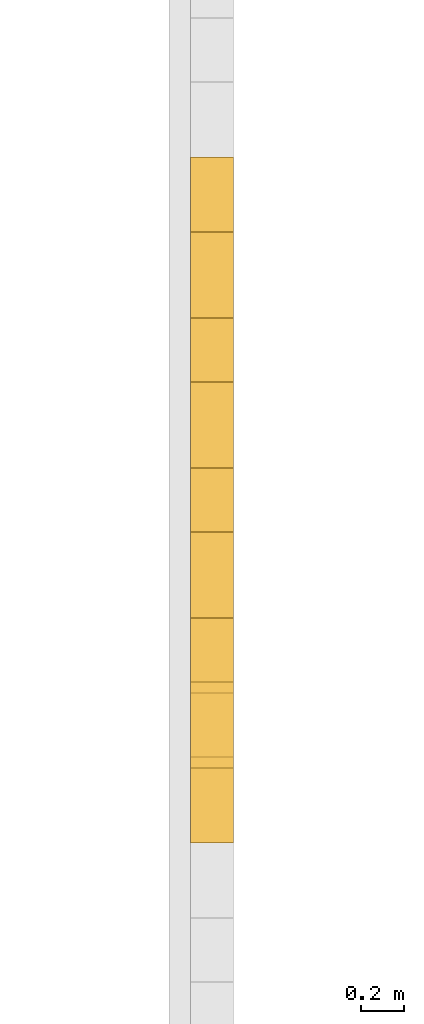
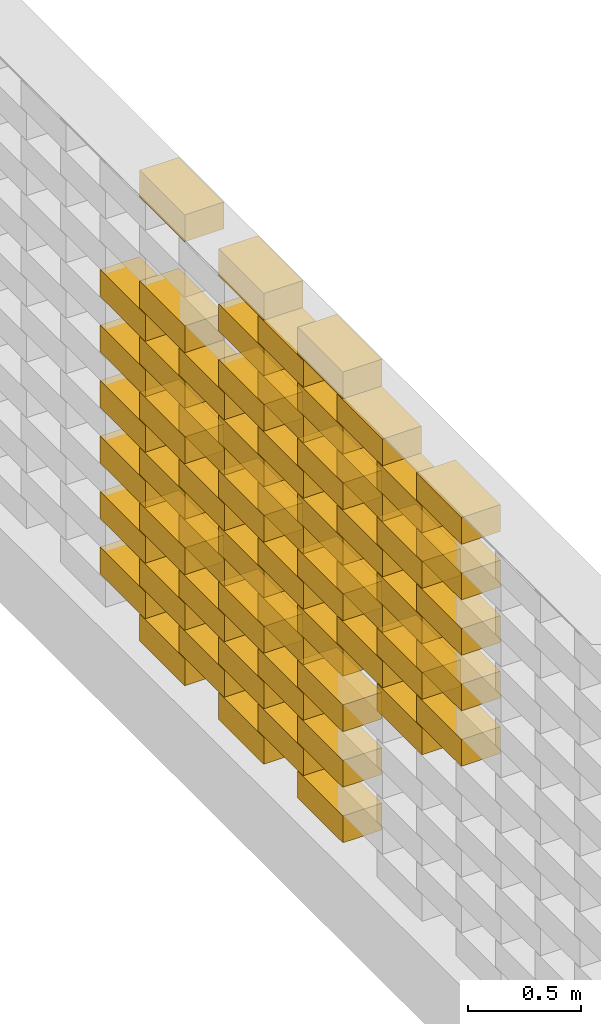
# One storey, part 39 of 62: 71 railings.
"""IFC2X3 building model written with IfcOpenShell, lengths in millimetres."""

from ifc_helpers import new_model, entity, si_unit, converted_unit, derived_unit, money_unit, direction, frame, origin_with_axes, place, context, subcontext, project, spatial, polyline, outline, extrude, material, type_object, element, save


model = new_model("IFC2X3")

# Units and contexts
model_context = context("Model", 3, precision=0.01, world=origin_with_axes(), true_north=direction((0.0, 1.0)))
body_context = subcontext(model_context, "Body", "Model", "MODEL_VIEW")
ifc_project = project(units=[si_unit("LENGTHUNIT", "METRE", prefix="MILLI"), si_unit("AREAUNIT", "SQUARE_METRE"), si_unit("VOLUMEUNIT", "CUBIC_METRE"), converted_unit("PLANEANGLEUNIT", "DEGREE", entity("IfcPlaneAngleMeasure", 0.0174532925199), si_unit("PLANEANGLEUNIT", "RADIAN"), dimensions=[0, 0, 0, 0, 0, 0, 0]), si_unit("SOLIDANGLEUNIT", "STERADIAN"), money_unit("EUR"), converted_unit("TIMEUNIT", "Year", entity("IfcTimeMeasure", 31556926.0), si_unit("TIMEUNIT", "SECOND"), dimensions=[0, 0, 1, 0, 0, 0, 0]), si_unit("MASSUNIT", "GRAM", prefix="KILO"), si_unit("THERMODYNAMICTEMPERATUREUNIT", "DEGREE_CELSIUS"), si_unit("LUMINOUSINTENSITYUNIT", "LUMEN"), si_unit("ENERGYUNIT", "JOULE", prefix="MEGA"), derived_unit("THERMALCONDUCTANCEUNIT", [(si_unit("POWERUNIT", "WATT"), 1), (si_unit("LENGTHUNIT", "METRE"), -1), (si_unit("THERMODYNAMICTEMPERATUREUNIT", "KELVIN"), -1)]), derived_unit("SPECIFICHEATCAPACITYUNIT", [(si_unit("ENERGYUNIT", "JOULE"), 1), (si_unit("MASSUNIT", "GRAM", prefix="KILO"), -1), (si_unit("THERMODYNAMICTEMPERATUREUNIT", "KELVIN"), -1)]), derived_unit("MASSDENSITYUNIT", [(si_unit("MASSUNIT", "GRAM", prefix="KILO"), 1), (si_unit("VOLUMEUNIT", "CUBIC_METRE"), -1)])], contexts=[model_context])

# Site, building, storey
site_placement = place(None, origin_with_axes())
site = spatial("IfcSite", under=ifc_project, at=site_placement, Name="KIRDE 14, ELVA", CompositionType="ELEMENT")
building_placement = place(site_placement, origin_with_axes())
building = spatial("IfcBuilding", under=site, at=building_placement, Name="PPA ja Päästeameti ühishoone", CompositionType="ELEMENT")
storey_placement = place(building_placement, origin_with_axes())
storey = spatial("IfcBuildingStorey", under=building, at=storey_placement, Name="Esimene korrus", CompositionType="ELEMENT", Elevation=0.0)

# Railings
ifc_material = material(Name="Air Space")
railing_type = type_object("IfcRailingType", Name="Air Space 200", PredefinedType="NOTDEFINED")
railing_1_placement = place(storey_placement, frame((620.000152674, -20223.8398398, 2800.0), z_axis=(0.0, 0.0, 1.0), x_axis=(1.45519151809e-09, -1.0, 0.0)))
element("IfcRailing", 1, at=railing_1_placement, inside=storey, type_object=railing_type, material=ifc_material, Name="plokk", PredefinedType="NOTDEFINED", context=body_context, shape_type="SweptSolid", body=[
    extrude(outline(polyline([(0.0, 0.0), (400.000001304, 0.0), (400.000001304, 200.0), (0.0, 200.0), (0.0, 0.0)])), origin_with_axes(), (0.0, 0.0, 1.0), 145.0),
])
railing_2_placement = place(storey_placement, frame((620.000153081, -19523.8398405, 2800.0), z_axis=(0.0, 0.0, 1.0), x_axis=(1.89174898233e-09, -1.0, 0.0)))
element("IfcRailing", 2, at=railing_2_placement, inside=storey, type_object=railing_type, material=ifc_material, Name="plokk", PredefinedType="NOTDEFINED", context=body_context, shape_type="SweptSolid", body=[
    extrude(outline(polyline([(0.0, 0.0), (399.999999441, 0.0), (399.999999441, 200.0), (0.0, 200.0), (0.0, 0.0)])), origin_with_axes(), (0.0, 0.0, 1.0), 145.0),
])
railing_3_placement = place(storey_placement, frame((620.000152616, -18823.8398403, 400.0), z_axis=(0.0, 0.0, 1.0), x_axis=(-4.36557456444e-10, -1.0, 0.0)))
element("IfcRailing", 3, at=railing_3_placement, inside=storey, type_object=railing_type, material=ifc_material, Name="plokk", PredefinedType="NOTDEFINED", context=body_context, shape_type="SweptSolid", body=[
    extrude(outline(polyline([(0.0, 0.0), (400.000000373, 0.0), (400.000000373, 200.0), (0.0, 200.0), (0.0, 0.0)])), origin_with_axes(), (0.0, 0.0, 1.0), 145.0),
])
railing_4_placement = place(storey_placement, frame((620.000153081, -19523.8398405, 400.0), z_axis=(0.0, 0.0, 1.0), x_axis=(1.89174898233e-09, -1.0, 0.0)))
element("IfcRailing", 4, at=railing_4_placement, inside=storey, type_object=railing_type, material=ifc_material, Name="plokk", PredefinedType="NOTDEFINED", context=body_context, shape_type="SweptSolid", body=[
    extrude(outline(polyline([(0.0, 0.0), (399.999999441, 0.0), (399.999999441, 200.0), (0.0, 200.0), (0.0, 0.0)])), origin_with_axes(), (0.0, 0.0, 1.0), 145.0),
])
railing_5_placement = place(storey_placement, frame((620.000152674, -20223.8398398, 400.0), z_axis=(0.0, 0.0, 1.0), x_axis=(1.45519151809e-09, -1.0, 0.0)))
element("IfcRailing", 5, at=railing_5_placement, inside=storey, type_object=railing_type, material=ifc_material, Name="plokk", PredefinedType="NOTDEFINED", context=body_context, shape_type="SweptSolid", body=[
    extrude(outline(polyline([(0.0, 0.0), (400.000001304, 0.0), (400.000001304, 200.0), (0.0, 200.0), (0.0, 0.0)])), origin_with_axes(), (0.0, 0.0, 1.0), 145.0),
])
railing_6_placement = place(storey_placement, frame((620.00015279, -18473.8398398, 550.0), z_axis=(0.0, 0.0, 1.0), x_axis=(8.73114912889e-10, -1.0, 0.0)))
element("IfcRailing", 6, at=railing_6_placement, inside=storey, type_object=railing_type, material=ifc_material, Name="plokk", PredefinedType="NOTDEFINED", context=body_context, shape_type="SweptSolid", body=[
    extrude(outline(polyline([(0.0, 0.0), (400.000000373, 0.0), (400.000000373, 200.0), (0.0, 200.0), (0.0, 0.0)])), origin_with_axes(), (0.0, 0.0, 1.0), 145.0),
])
railing_7_placement = place(storey_placement, frame((620.000153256, -19173.8398399, 550.0), z_axis=(0.0, 0.0, 1.0), x_axis=(-2.91038304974e-10, -1.0, 0.0)))
element("IfcRailing", 7, at=railing_7_placement, inside=storey, type_object=railing_type, material=ifc_material, Name="plokk", PredefinedType="NOTDEFINED", context=body_context, shape_type="SweptSolid", body=[
    extrude(outline(polyline([(0.0, 0.0), (399.999999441, 0.0), (399.999999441, 200.0), (0.0, 200.0), (0.0, 0.0)])), origin_with_axes(), (0.0, 0.0, 1.0), 145.0),
])
for number, where, z_axis, x_axis in (
    (8, (620.000153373, -19873.8398401, 550.0), (0.0, 0.0, 1.0), (-8.73114912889e-10, -1.0, 0.0)),
    (9, (620.000152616, -18823.8398403, 700.0), (0.0, 0.0, 1.0), (-4.36557456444e-10, -1.0, 0.0)),
):
    element("IfcRailing", number, at=place(storey_placement, frame(where, z_axis=z_axis, x_axis=x_axis)), inside=storey, type_object=railing_type, material=ifc_material, Name="plokk", PredefinedType="NOTDEFINED", context=body_context, shape_type="SweptSolid", body=[
        extrude(outline(polyline([(0.0, 0.0), (400.000000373, 0.0), (400.000000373, 200.0), (0.0, 200.0), (0.0, 0.0)])), origin_with_axes(), (0.0, 0.0, 1.0), 145.0),
    ])
railing_8_placement = place(storey_placement, frame((620.000153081, -19523.8398405, 700.0), z_axis=(0.0, 0.0, 1.0), x_axis=(1.89174898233e-09, -1.0, 0.0)))
element("IfcRailing", 10, at=railing_8_placement, inside=storey, type_object=railing_type, material=ifc_material, Name="plokk", PredefinedType="NOTDEFINED", context=body_context, shape_type="SweptSolid", body=[
    extrude(outline(polyline([(0.0, 0.0), (399.999999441, 0.0), (399.999999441, 200.0), (0.0, 200.0), (0.0, 0.0)])), origin_with_axes(), (0.0, 0.0, 1.0), 145.0),
])
railing_9_placement = place(storey_placement, frame((620.000152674, -20223.8398398, 700.0), z_axis=(0.0, 0.0, 1.0), x_axis=(1.45519151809e-09, -1.0, 0.0)))
element("IfcRailing", 11, at=railing_9_placement, inside=storey, type_object=railing_type, material=ifc_material, Name="plokk", PredefinedType="NOTDEFINED", context=body_context, shape_type="SweptSolid", body=[
    extrude(outline(polyline([(0.0, 0.0), (400.000001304, 0.0), (400.000001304, 200.0), (0.0, 200.0), (0.0, 0.0)])), origin_with_axes(), (0.0, 0.0, 1.0), 145.0),
])
railing_10_placement = place(storey_placement, frame((620.00015279, -18473.8398398, 850.0), z_axis=(0.0, 0.0, 1.0), x_axis=(8.73114912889e-10, -1.0, 0.0)))
element("IfcRailing", 12, at=railing_10_placement, inside=storey, type_object=railing_type, material=ifc_material, Name="plokk", PredefinedType="NOTDEFINED", context=body_context, shape_type="SweptSolid", body=[
    extrude(outline(polyline([(0.0, 0.0), (400.000000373, 0.0), (400.000000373, 200.0), (0.0, 200.0), (0.0, 0.0)])), origin_with_axes(), (0.0, 0.0, 1.0), 145.0),
])
railing_11_placement = place(storey_placement, frame((620.000153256, -19173.8398399, 850.0), z_axis=(0.0, 0.0, 1.0), x_axis=(-2.91038304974e-10, -1.0, 0.0)))
element("IfcRailing", 13, at=railing_11_placement, inside=storey, type_object=railing_type, material=ifc_material, Name="plokk", PredefinedType="NOTDEFINED", context=body_context, shape_type="SweptSolid", body=[
    extrude(outline(polyline([(0.0, 0.0), (399.999999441, 0.0), (399.999999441, 200.0), (0.0, 200.0), (0.0, 0.0)])), origin_with_axes(), (0.0, 0.0, 1.0), 145.0),
])
for number, where, z_axis, x_axis in (
    (14, (620.000153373, -19873.8398401, 850.0), (0.0, 0.0, 1.0), (-8.73114912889e-10, -1.0, 0.0)),
    (15, (620.000152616, -18823.8398403, 1000.0), (0.0, 0.0, 1.0), (-4.36557456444e-10, -1.0, 0.0)),
):
    element("IfcRailing", number, at=place(storey_placement, frame(where, z_axis=z_axis, x_axis=x_axis)), inside=storey, type_object=railing_type, material=ifc_material, Name="plokk", PredefinedType="NOTDEFINED", context=body_context, shape_type="SweptSolid", body=[
        extrude(outline(polyline([(0.0, 0.0), (400.000000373, 0.0), (400.000000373, 200.0), (0.0, 200.0), (0.0, 0.0)])), origin_with_axes(), (0.0, 0.0, 1.0), 145.0),
    ])
railing_12_placement = place(storey_placement, frame((620.000153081, -19523.8398405, 1000.0), z_axis=(0.0, 0.0, 1.0), x_axis=(1.89174898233e-09, -1.0, 0.0)))
element("IfcRailing", 16, at=railing_12_placement, inside=storey, type_object=railing_type, material=ifc_material, Name="plokk", PredefinedType="NOTDEFINED", context=body_context, shape_type="SweptSolid", body=[
    extrude(outline(polyline([(0.0, 0.0), (399.999999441, 0.0), (399.999999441, 200.0), (0.0, 200.0), (0.0, 0.0)])), origin_with_axes(), (0.0, 0.0, 1.0), 145.0),
])
railing_13_placement = place(storey_placement, frame((620.000152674, -20223.8398398, 1000.0), z_axis=(0.0, 0.0, 1.0), x_axis=(1.45519151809e-09, -1.0, 0.0)))
element("IfcRailing", 17, at=railing_13_placement, inside=storey, type_object=railing_type, material=ifc_material, Name="plokk", PredefinedType="NOTDEFINED", context=body_context, shape_type="SweptSolid", body=[
    extrude(outline(polyline([(0.0, 0.0), (400.000001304, 0.0), (400.000001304, 200.0), (0.0, 200.0), (0.0, 0.0)])), origin_with_axes(), (0.0, 0.0, 1.0), 145.0),
])
for number, where, z_axis, x_axis in (
    (18, (620.000152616, -18823.8398403, 2800.0), (0.0, 0.0, 1.0), (-4.36557456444e-10, -1.0, 0.0)),
    (19, (620.000152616, -18823.8398403, 1000.0), (0.0, 0.0, 1.0), (-4.36557456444e-10, -1.0, 0.0)),
):
    element("IfcRailing", number, at=place(storey_placement, frame(where, z_axis=z_axis, x_axis=x_axis)), inside=storey, type_object=railing_type, material=ifc_material, Name="plokk", PredefinedType="NOTDEFINED", context=body_context, shape_type="SweptSolid", body=[
        extrude(outline(polyline([(0.0, 0.0), (400.000000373, 0.0), (400.000000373, 200.0), (0.0, 200.0), (0.0, 0.0)])), origin_with_axes(), (0.0, 0.0, 1.0), 145.0),
    ])
railing_14_placement = place(storey_placement, frame((620.000153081, -19523.8398405, 1000.0), z_axis=(0.0, 0.0, 1.0), x_axis=(1.89174898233e-09, -1.0, 0.0)))
element("IfcRailing", 20, at=railing_14_placement, inside=storey, type_object=railing_type, material=ifc_material, Name="plokk", PredefinedType="NOTDEFINED", context=body_context, shape_type="SweptSolid", body=[
    extrude(outline(polyline([(0.0, 0.0), (399.999999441, 0.0), (399.999999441, 200.0), (0.0, 200.0), (0.0, 0.0)])), origin_with_axes(), (0.0, 0.0, 1.0), 145.0),
])
railing_15_placement = place(storey_placement, frame((620.000152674, -20223.8398398, 1000.0), z_axis=(0.0, 0.0, 1.0), x_axis=(1.45519151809e-09, -1.0, 0.0)))
element("IfcRailing", 21, at=railing_15_placement, inside=storey, type_object=railing_type, material=ifc_material, Name="plokk", PredefinedType="NOTDEFINED", context=body_context, shape_type="SweptSolid", body=[
    extrude(outline(polyline([(0.0, 0.0), (400.000001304, 0.0), (400.000001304, 200.0), (0.0, 200.0), (0.0, 0.0)])), origin_with_axes(), (0.0, 0.0, 1.0), 145.0),
])
railing_16_placement = place(storey_placement, frame((620.00015279, -18473.8398398, 1150.0), z_axis=(0.0, 0.0, 1.0), x_axis=(8.73114912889e-10, -1.0, 0.0)))
element("IfcRailing", 22, at=railing_16_placement, inside=storey, type_object=railing_type, material=ifc_material, Name="plokk", PredefinedType="NOTDEFINED", context=body_context, shape_type="SweptSolid", body=[
    extrude(outline(polyline([(0.0, 0.0), (400.000000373, 0.0), (400.000000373, 200.0), (0.0, 200.0), (0.0, 0.0)])), origin_with_axes(), (0.0, 0.0, 1.0), 145.0),
])
railing_17_placement = place(storey_placement, frame((620.000153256, -19173.8398399, 1150.0), z_axis=(0.0, 0.0, 1.0), x_axis=(-2.91038304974e-10, -1.0, 0.0)))
element("IfcRailing", 23, at=railing_17_placement, inside=storey, type_object=railing_type, material=ifc_material, Name="plokk", PredefinedType="NOTDEFINED", context=body_context, shape_type="SweptSolid", body=[
    extrude(outline(polyline([(0.0, 0.0), (399.999999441, 0.0), (399.999999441, 200.0), (0.0, 200.0), (0.0, 0.0)])), origin_with_axes(), (0.0, 0.0, 1.0), 145.0),
])
for number, where, z_axis, x_axis in (
    (24, (620.000153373, -19873.8398401, 1150.0), (0.0, 0.0, 1.0), (-8.73114912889e-10, -1.0, 0.0)),
    (25, (620.000152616, -18823.8398403, 1300.0), (0.0, 0.0, 1.0), (-4.36557456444e-10, -1.0, 0.0)),
):
    element("IfcRailing", number, at=place(storey_placement, frame(where, z_axis=z_axis, x_axis=x_axis)), inside=storey, type_object=railing_type, material=ifc_material, Name="plokk", PredefinedType="NOTDEFINED", context=body_context, shape_type="SweptSolid", body=[
        extrude(outline(polyline([(0.0, 0.0), (400.000000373, 0.0), (400.000000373, 200.0), (0.0, 200.0), (0.0, 0.0)])), origin_with_axes(), (0.0, 0.0, 1.0), 145.0),
    ])
railing_18_placement = place(storey_placement, frame((620.000153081, -19523.8398405, 1300.0), z_axis=(0.0, 0.0, 1.0), x_axis=(1.89174898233e-09, -1.0, 0.0)))
element("IfcRailing", 26, at=railing_18_placement, inside=storey, type_object=railing_type, material=ifc_material, Name="plokk", PredefinedType="NOTDEFINED", context=body_context, shape_type="SweptSolid", body=[
    extrude(outline(polyline([(0.0, 0.0), (399.999999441, 0.0), (399.999999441, 200.0), (0.0, 200.0), (0.0, 0.0)])), origin_with_axes(), (0.0, 0.0, 1.0), 145.0),
])
railing_19_placement = place(storey_placement, frame((620.000152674, -20223.8398398, 1300.0), z_axis=(0.0, 0.0, 1.0), x_axis=(1.45519151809e-09, -1.0, 0.0)))
element("IfcRailing", 27, at=railing_19_placement, inside=storey, type_object=railing_type, material=ifc_material, Name="plokk", PredefinedType="NOTDEFINED", context=body_context, shape_type="SweptSolid", body=[
    extrude(outline(polyline([(0.0, 0.0), (400.000001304, 0.0), (400.000001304, 200.0), (0.0, 200.0), (0.0, 0.0)])), origin_with_axes(), (0.0, 0.0, 1.0), 145.0),
])
railing_20_placement = place(storey_placement, frame((620.000153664, -20923.8398409, 1300.0), z_axis=(0.0, 0.0, 1.0), x_axis=(7.27595762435e-10, -1.0, 0.0)))
element("IfcRailing", 28, at=railing_20_placement, inside=storey, type_object=railing_type, material=ifc_material, Name="plokk", PredefinedType="NOTDEFINED", context=body_context, shape_type="SweptSolid", body=[
    extrude(outline(polyline([(0.0, 0.0), (399.999999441, 0.0), (399.999999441, 200.0), (0.0, 200.0), (0.0, 0.0)])), origin_with_axes(), (0.0, 0.0, 1.0), 145.0),
])
railing_21_placement = place(storey_placement, frame((620.00015279, -18473.8398398, 1450.0), z_axis=(0.0, 0.0, 1.0), x_axis=(8.73114912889e-10, -1.0, 0.0)))
element("IfcRailing", 29, at=railing_21_placement, inside=storey, type_object=railing_type, material=ifc_material, Name="plokk", PredefinedType="NOTDEFINED", context=body_context, shape_type="SweptSolid", body=[
    extrude(outline(polyline([(0.0, 0.0), (400.000000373, 0.0), (400.000000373, 200.0), (0.0, 200.0), (0.0, 0.0)])), origin_with_axes(), (0.0, 0.0, 1.0), 145.0),
])
railing_22_placement = place(storey_placement, frame((620.000153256, -19173.8398399, 1450.0), z_axis=(0.0, 0.0, 1.0), x_axis=(-2.91038304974e-10, -1.0, 0.0)))
element("IfcRailing", 30, at=railing_22_placement, inside=storey, type_object=railing_type, material=ifc_material, Name="plokk", PredefinedType="NOTDEFINED", context=body_context, shape_type="SweptSolid", body=[
    extrude(outline(polyline([(0.0, 0.0), (399.999999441, 0.0), (399.999999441, 200.0), (0.0, 200.0), (0.0, 0.0)])), origin_with_axes(), (0.0, 0.0, 1.0), 145.0),
])
for number, where, z_axis, x_axis in (
    (31, (620.000153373, -19873.8398401, 1450.0), (0.0, 0.0, 1.0), (-8.73114912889e-10, -1.0, 0.0)),
    (32, (620.000153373, -20573.8398403, 1450.0), (0.0, 0.0, 1.0), (-2.91038304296e-10, -1.0, 0.0)),
):
    element("IfcRailing", number, at=place(storey_placement, frame(where, z_axis=z_axis, x_axis=x_axis)), inside=storey, type_object=railing_type, material=ifc_material, Name="plokk", PredefinedType="NOTDEFINED", context=body_context, shape_type="SweptSolid", body=[
        extrude(outline(polyline([(0.0, 0.0), (400.000000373, 0.0), (400.000000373, 200.0), (0.0, 200.0), (0.0, 0.0)])), origin_with_axes(), (0.0, 0.0, 1.0), 145.0),
    ])
railing_23_placement = place(storey_placement, frame((620.00015279, -21273.8398414, 1450.0), z_axis=(0.0, 0.0, 1.0), x_axis=(2.03726813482e-09, -1.0, 0.0)))
element("IfcRailing", 33, at=railing_23_placement, inside=storey, type_object=railing_type, material=ifc_material, Name="plokk", PredefinedType="NOTDEFINED", context=body_context, shape_type="SweptSolid", body=[
    extrude(outline(polyline([(0.0, 0.0), (399.999999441, 0.0), (399.999999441, 200.0), (0.0, 200.0), (0.0, 0.0)])), origin_with_axes(), (0.0, 0.0, 1.0), 145.0),
])
railing_24_placement = place(storey_placement, frame((620.000152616, -18823.8398403, 1600.0), z_axis=(0.0, 0.0, 1.0), x_axis=(-4.36557456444e-10, -1.0, 0.0)))
element("IfcRailing", 34, at=railing_24_placement, inside=storey, type_object=railing_type, material=ifc_material, Name="plokk", PredefinedType="NOTDEFINED", context=body_context, shape_type="SweptSolid", body=[
    extrude(outline(polyline([(0.0, 0.0), (400.000000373, 0.0), (400.000000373, 200.0), (0.0, 200.0), (0.0, 0.0)])), origin_with_axes(), (0.0, 0.0, 1.0), 145.0),
])
railing_25_placement = place(storey_placement, frame((620.000153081, -19523.8398405, 1600.0), z_axis=(0.0, 0.0, 1.0), x_axis=(1.89174898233e-09, -1.0, 0.0)))
element("IfcRailing", 35, at=railing_25_placement, inside=storey, type_object=railing_type, material=ifc_material, Name="plokk", PredefinedType="NOTDEFINED", context=body_context, shape_type="SweptSolid", body=[
    extrude(outline(polyline([(0.0, 0.0), (399.999999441, 0.0), (399.999999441, 200.0), (0.0, 200.0), (0.0, 0.0)])), origin_with_axes(), (0.0, 0.0, 1.0), 145.0),
])
railing_26_placement = place(storey_placement, frame((620.000152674, -20223.8398398, 1600.0), z_axis=(0.0, 0.0, 1.0), x_axis=(1.45519151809e-09, -1.0, 0.0)))
element("IfcRailing", 36, at=railing_26_placement, inside=storey, type_object=railing_type, material=ifc_material, Name="plokk", PredefinedType="NOTDEFINED", context=body_context, shape_type="SweptSolid", body=[
    extrude(outline(polyline([(0.0, 0.0), (400.000001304, 0.0), (400.000001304, 200.0), (0.0, 200.0), (0.0, 0.0)])), origin_with_axes(), (0.0, 0.0, 1.0), 145.0),
])
railing_27_placement = place(storey_placement, frame((620.000153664, -20923.8398409, 1600.0), z_axis=(0.0, 0.0, 1.0), x_axis=(7.27595762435e-10, -1.0, 0.0)))
element("IfcRailing", 37, at=railing_27_placement, inside=storey, type_object=railing_type, material=ifc_material, Name="plokk", PredefinedType="NOTDEFINED", context=body_context, shape_type="SweptSolid", body=[
    extrude(outline(polyline([(0.0, 0.0), (399.999999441, 0.0), (399.999999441, 200.0), (0.0, 200.0), (0.0, 0.0)])), origin_with_axes(), (0.0, 0.0, 1.0), 145.0),
])
railing_28_placement = place(storey_placement, frame((620.000152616, -18823.8398403, 1600.0), z_axis=(0.0, 0.0, 1.0), x_axis=(-4.36557456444e-10, -1.0, 0.0)))
element("IfcRailing", 38, at=railing_28_placement, inside=storey, type_object=railing_type, material=ifc_material, Name="plokk", PredefinedType="NOTDEFINED", context=body_context, shape_type="SweptSolid", body=[
    extrude(outline(polyline([(0.0, 0.0), (400.000000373, 0.0), (400.000000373, 200.0), (0.0, 200.0), (0.0, 0.0)])), origin_with_axes(), (0.0, 0.0, 1.0), 145.0),
])
railing_29_placement = place(storey_placement, frame((620.000153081, -19523.8398405, 1600.0), z_axis=(0.0, 0.0, 1.0), x_axis=(1.89174898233e-09, -1.0, 0.0)))
element("IfcRailing", 39, at=railing_29_placement, inside=storey, type_object=railing_type, material=ifc_material, Name="plokk", PredefinedType="NOTDEFINED", context=body_context, shape_type="SweptSolid", body=[
    extrude(outline(polyline([(0.0, 0.0), (399.999999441, 0.0), (399.999999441, 200.0), (0.0, 200.0), (0.0, 0.0)])), origin_with_axes(), (0.0, 0.0, 1.0), 145.0),
])
railing_30_placement = place(storey_placement, frame((620.000152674, -20223.8398398, 1600.0), z_axis=(0.0, 0.0, 1.0), x_axis=(1.45519151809e-09, -1.0, 0.0)))
element("IfcRailing", 40, at=railing_30_placement, inside=storey, type_object=railing_type, material=ifc_material, Name="plokk", PredefinedType="NOTDEFINED", context=body_context, shape_type="SweptSolid", body=[
    extrude(outline(polyline([(0.0, 0.0), (400.000001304, 0.0), (400.000001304, 200.0), (0.0, 200.0), (0.0, 0.0)])), origin_with_axes(), (0.0, 0.0, 1.0), 145.0),
])
railing_31_placement = place(storey_placement, frame((620.000153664, -20923.8398409, 1600.0), z_axis=(0.0, 0.0, 1.0), x_axis=(7.27595762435e-10, -1.0, 0.0)))
element("IfcRailing", 41, at=railing_31_placement, inside=storey, type_object=railing_type, material=ifc_material, Name="plokk", PredefinedType="NOTDEFINED", context=body_context, shape_type="SweptSolid", body=[
    extrude(outline(polyline([(0.0, 0.0), (399.999999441, 0.0), (399.999999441, 200.0), (0.0, 200.0), (0.0, 0.0)])), origin_with_axes(), (0.0, 0.0, 1.0), 145.0),
])
railing_32_placement = place(storey_placement, frame((620.00015279, -18473.8398398, 1750.0), z_axis=(0.0, 0.0, 1.0), x_axis=(8.73114912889e-10, -1.0, 0.0)))
element("IfcRailing", 42, at=railing_32_placement, inside=storey, type_object=railing_type, material=ifc_material, Name="plokk", PredefinedType="NOTDEFINED", context=body_context, shape_type="SweptSolid", body=[
    extrude(outline(polyline([(0.0, 0.0), (400.000000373, 0.0), (400.000000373, 200.0), (0.0, 200.0), (0.0, 0.0)])), origin_with_axes(), (0.0, 0.0, 1.0), 145.0),
])
railing_33_placement = place(storey_placement, frame((620.000153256, -19173.8398399, 1750.0), z_axis=(0.0, 0.0, 1.0), x_axis=(-2.91038304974e-10, -1.0, 0.0)))
element("IfcRailing", 43, at=railing_33_placement, inside=storey, type_object=railing_type, material=ifc_material, Name="plokk", PredefinedType="NOTDEFINED", context=body_context, shape_type="SweptSolid", body=[
    extrude(outline(polyline([(0.0, 0.0), (399.999999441, 0.0), (399.999999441, 200.0), (0.0, 200.0), (0.0, 0.0)])), origin_with_axes(), (0.0, 0.0, 1.0), 145.0),
])
for number, where, z_axis, x_axis in (
    (44, (620.000153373, -19873.8398401, 1750.0), (0.0, 0.0, 1.0), (-8.73114912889e-10, -1.0, 0.0)),
    (45, (620.000153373, -20573.8398403, 1750.0), (0.0, 0.0, 1.0), (-2.91038304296e-10, -1.0, 0.0)),
):
    element("IfcRailing", number, at=place(storey_placement, frame(where, z_axis=z_axis, x_axis=x_axis)), inside=storey, type_object=railing_type, material=ifc_material, Name="plokk", PredefinedType="NOTDEFINED", context=body_context, shape_type="SweptSolid", body=[
        extrude(outline(polyline([(0.0, 0.0), (400.000000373, 0.0), (400.000000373, 200.0), (0.0, 200.0), (0.0, 0.0)])), origin_with_axes(), (0.0, 0.0, 1.0), 145.0),
    ])
railing_34_placement = place(storey_placement, frame((620.00015279, -21273.8398414, 1750.0), z_axis=(0.0, 0.0, 1.0), x_axis=(2.03726813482e-09, -1.0, 0.0)))
element("IfcRailing", 46, at=railing_34_placement, inside=storey, type_object=railing_type, material=ifc_material, Name="plokk", PredefinedType="NOTDEFINED", context=body_context, shape_type="SweptSolid", body=[
    extrude(outline(polyline([(0.0, 0.0), (399.999999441, 0.0), (399.999999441, 200.0), (0.0, 200.0), (0.0, 0.0)])), origin_with_axes(), (0.0, 0.0, 1.0), 145.0),
])
railing_35_placement = place(storey_placement, frame((620.000152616, -18823.8398403, 1900.0), z_axis=(0.0, 0.0, 1.0), x_axis=(-4.36557456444e-10, -1.0, 0.0)))
element("IfcRailing", 47, at=railing_35_placement, inside=storey, type_object=railing_type, material=ifc_material, Name="plokk", PredefinedType="NOTDEFINED", context=body_context, shape_type="SweptSolid", body=[
    extrude(outline(polyline([(0.0, 0.0), (400.000000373, 0.0), (400.000000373, 200.0), (0.0, 200.0), (0.0, 0.0)])), origin_with_axes(), (0.0, 0.0, 1.0), 145.0),
])
railing_36_placement = place(storey_placement, frame((620.000153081, -19523.8398405, 1900.0), z_axis=(0.0, 0.0, 1.0), x_axis=(1.89174898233e-09, -1.0, 0.0)))
element("IfcRailing", 48, at=railing_36_placement, inside=storey, type_object=railing_type, material=ifc_material, Name="plokk", PredefinedType="NOTDEFINED", context=body_context, shape_type="SweptSolid", body=[
    extrude(outline(polyline([(0.0, 0.0), (399.999999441, 0.0), (399.999999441, 200.0), (0.0, 200.0), (0.0, 0.0)])), origin_with_axes(), (0.0, 0.0, 1.0), 145.0),
])
railing_37_placement = place(storey_placement, frame((620.000152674, -20223.8398398, 1900.0), z_axis=(0.0, 0.0, 1.0), x_axis=(1.45519151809e-09, -1.0, 0.0)))
element("IfcRailing", 49, at=railing_37_placement, inside=storey, type_object=railing_type, material=ifc_material, Name="plokk", PredefinedType="NOTDEFINED", context=body_context, shape_type="SweptSolid", body=[
    extrude(outline(polyline([(0.0, 0.0), (400.000001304, 0.0), (400.000001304, 200.0), (0.0, 200.0), (0.0, 0.0)])), origin_with_axes(), (0.0, 0.0, 1.0), 145.0),
])
railing_38_placement = place(storey_placement, frame((620.000153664, -20923.8398409, 1900.0), z_axis=(0.0, 0.0, 1.0), x_axis=(7.27595762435e-10, -1.0, 0.0)))
element("IfcRailing", 50, at=railing_38_placement, inside=storey, type_object=railing_type, material=ifc_material, Name="plokk", PredefinedType="NOTDEFINED", context=body_context, shape_type="SweptSolid", body=[
    extrude(outline(polyline([(0.0, 0.0), (399.999999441, 0.0), (399.999999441, 200.0), (0.0, 200.0), (0.0, 0.0)])), origin_with_axes(), (0.0, 0.0, 1.0), 145.0),
])
railing_39_placement = place(storey_placement, frame((620.00015279, -18473.8398398, 2050.0), z_axis=(0.0, 0.0, 1.0), x_axis=(8.73114912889e-10, -1.0, 0.0)))
element("IfcRailing", 51, at=railing_39_placement, inside=storey, type_object=railing_type, material=ifc_material, Name="plokk", PredefinedType="NOTDEFINED", context=body_context, shape_type="SweptSolid", body=[
    extrude(outline(polyline([(0.0, 0.0), (400.000000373, 0.0), (400.000000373, 200.0), (0.0, 200.0), (0.0, 0.0)])), origin_with_axes(), (0.0, 0.0, 1.0), 145.0),
])
railing_40_placement = place(storey_placement, frame((620.000153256, -19173.8398399, 2050.0), z_axis=(0.0, 0.0, 1.0), x_axis=(-2.91038304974e-10, -1.0, 0.0)))
element("IfcRailing", 52, at=railing_40_placement, inside=storey, type_object=railing_type, material=ifc_material, Name="plokk", PredefinedType="NOTDEFINED", context=body_context, shape_type="SweptSolid", body=[
    extrude(outline(polyline([(0.0, 0.0), (399.999999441, 0.0), (399.999999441, 200.0), (0.0, 200.0), (0.0, 0.0)])), origin_with_axes(), (0.0, 0.0, 1.0), 145.0),
])
for number, where, z_axis, x_axis in (
    (53, (620.000153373, -19873.8398401, 2050.0), (0.0, 0.0, 1.0), (-8.73114912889e-10, -1.0, 0.0)),
    (54, (620.000153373, -20573.8398403, 2050.0), (0.0, 0.0, 1.0), (-2.91038304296e-10, -1.0, 0.0)),
):
    element("IfcRailing", number, at=place(storey_placement, frame(where, z_axis=z_axis, x_axis=x_axis)), inside=storey, type_object=railing_type, material=ifc_material, Name="plokk", PredefinedType="NOTDEFINED", context=body_context, shape_type="SweptSolid", body=[
        extrude(outline(polyline([(0.0, 0.0), (400.000000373, 0.0), (400.000000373, 200.0), (0.0, 200.0), (0.0, 0.0)])), origin_with_axes(), (0.0, 0.0, 1.0), 145.0),
    ])
railing_41_placement = place(storey_placement, frame((620.00015279, -21273.8398414, 2050.0), z_axis=(0.0, 0.0, 1.0), x_axis=(2.03726813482e-09, -1.0, 0.0)))
element("IfcRailing", 55, at=railing_41_placement, inside=storey, type_object=railing_type, material=ifc_material, Name="plokk", PredefinedType="NOTDEFINED", context=body_context, shape_type="SweptSolid", body=[
    extrude(outline(polyline([(0.0, 0.0), (399.999999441, 0.0), (399.999999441, 200.0), (0.0, 200.0), (0.0, 0.0)])), origin_with_axes(), (0.0, 0.0, 1.0), 145.0),
])
railing_42_placement = place(storey_placement, frame((620.000152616, -18823.8398403, 2200.0), z_axis=(0.0, 0.0, 1.0), x_axis=(-4.36557456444e-10, -1.0, 0.0)))
element("IfcRailing", 56, at=railing_42_placement, inside=storey, type_object=railing_type, material=ifc_material, Name="plokk", PredefinedType="NOTDEFINED", context=body_context, shape_type="SweptSolid", body=[
    extrude(outline(polyline([(0.0, 0.0), (400.000000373, 0.0), (400.000000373, 200.0), (0.0, 200.0), (0.0, 0.0)])), origin_with_axes(), (0.0, 0.0, 1.0), 145.0),
])
railing_43_placement = place(storey_placement, frame((620.000153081, -19523.8398405, 2200.0), z_axis=(0.0, 0.0, 1.0), x_axis=(1.89174898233e-09, -1.0, 0.0)))
element("IfcRailing", 57, at=railing_43_placement, inside=storey, type_object=railing_type, material=ifc_material, Name="plokk", PredefinedType="NOTDEFINED", context=body_context, shape_type="SweptSolid", body=[
    extrude(outline(polyline([(0.0, 0.0), (399.999999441, 0.0), (399.999999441, 200.0), (0.0, 200.0), (0.0, 0.0)])), origin_with_axes(), (0.0, 0.0, 1.0), 145.0),
])
railing_44_placement = place(storey_placement, frame((620.000152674, -20223.8398398, 2200.0), z_axis=(0.0, 0.0, 1.0), x_axis=(1.45519151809e-09, -1.0, 0.0)))
element("IfcRailing", 58, at=railing_44_placement, inside=storey, type_object=railing_type, material=ifc_material, Name="plokk", PredefinedType="NOTDEFINED", context=body_context, shape_type="SweptSolid", body=[
    extrude(outline(polyline([(0.0, 0.0), (400.000001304, 0.0), (400.000001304, 200.0), (0.0, 200.0), (0.0, 0.0)])), origin_with_axes(), (0.0, 0.0, 1.0), 145.0),
])
for number, where, z_axis, x_axis in (
    (59, (620.000153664, -20923.8398409, 2200.0), (0.0, 0.0, 1.0), (7.27595762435e-10, -1.0, 0.0)),
    (60, (620.000153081, -19523.8398405, 2200.0), (0.0, 0.0, 1.0), (1.89174898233e-09, -1.0, 0.0)),
):
    element("IfcRailing", number, at=place(storey_placement, frame(where, z_axis=z_axis, x_axis=x_axis)), inside=storey, type_object=railing_type, material=ifc_material, Name="plokk", PredefinedType="NOTDEFINED", context=body_context, shape_type="SweptSolid", body=[
        extrude(outline(polyline([(0.0, 0.0), (399.999999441, 0.0), (399.999999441, 200.0), (0.0, 200.0), (0.0, 0.0)])), origin_with_axes(), (0.0, 0.0, 1.0), 145.0),
    ])
railing_45_placement = place(storey_placement, frame((620.000152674, -20223.8398398, 2200.0), z_axis=(0.0, 0.0, 1.0), x_axis=(1.45519151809e-09, -1.0, 0.0)))
element("IfcRailing", 61, at=railing_45_placement, inside=storey, type_object=railing_type, material=ifc_material, Name="plokk", PredefinedType="NOTDEFINED", context=body_context, shape_type="SweptSolid", body=[
    extrude(outline(polyline([(0.0, 0.0), (400.000001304, 0.0), (400.000001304, 200.0), (0.0, 200.0), (0.0, 0.0)])), origin_with_axes(), (0.0, 0.0, 1.0), 145.0),
])
railing_46_placement = place(storey_placement, frame((620.000153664, -20923.8398409, 2200.0), z_axis=(0.0, 0.0, 1.0), x_axis=(7.27595762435e-10, -1.0, 0.0)))
element("IfcRailing", 62, at=railing_46_placement, inside=storey, type_object=railing_type, material=ifc_material, Name="plokk", PredefinedType="NOTDEFINED", context=body_context, shape_type="SweptSolid", body=[
    extrude(outline(polyline([(0.0, 0.0), (399.999999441, 0.0), (399.999999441, 200.0), (0.0, 200.0), (0.0, 0.0)])), origin_with_axes(), (0.0, 0.0, 1.0), 145.0),
])
for number, where, z_axis, x_axis in (
    (63, (620.000153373, -19873.8398401, 2350.0), (0.0, 0.0, 1.0), (-8.73114912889e-10, -1.0, 0.0)),
    (64, (620.000153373, -20573.8398403, 2350.0), (0.0, 0.0, 1.0), (-2.91038304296e-10, -1.0, 0.0)),
):
    element("IfcRailing", number, at=place(storey_placement, frame(where, z_axis=z_axis, x_axis=x_axis)), inside=storey, type_object=railing_type, material=ifc_material, Name="plokk", PredefinedType="NOTDEFINED", context=body_context, shape_type="SweptSolid", body=[
        extrude(outline(polyline([(0.0, 0.0), (400.000000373, 0.0), (400.000000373, 200.0), (0.0, 200.0), (0.0, 0.0)])), origin_with_axes(), (0.0, 0.0, 1.0), 145.0),
    ])
for number, where, z_axis, x_axis in (
    (65, (620.00015279, -21273.8398414, 2350.0), (0.0, 0.0, 1.0), (2.03726813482e-09, -1.0, 0.0)),
    (66, (620.000153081, -19523.8398405, 2500.0), (0.0, 0.0, 1.0), (1.89174898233e-09, -1.0, 0.0)),
):
    element("IfcRailing", number, at=place(storey_placement, frame(where, z_axis=z_axis, x_axis=x_axis)), inside=storey, type_object=railing_type, material=ifc_material, Name="plokk", PredefinedType="NOTDEFINED", context=body_context, shape_type="SweptSolid", body=[
        extrude(outline(polyline([(0.0, 0.0), (399.999999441, 0.0), (399.999999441, 200.0), (0.0, 200.0), (0.0, 0.0)])), origin_with_axes(), (0.0, 0.0, 1.0), 145.0),
    ])
railing_47_placement = place(storey_placement, frame((620.000152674, -20223.8398398, 2500.0), z_axis=(0.0, 0.0, 1.0), x_axis=(1.45519151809e-09, -1.0, 0.0)))
element("IfcRailing", 67, at=railing_47_placement, inside=storey, type_object=railing_type, material=ifc_material, Name="plokk", PredefinedType="NOTDEFINED", context=body_context, shape_type="SweptSolid", body=[
    extrude(outline(polyline([(0.0, 0.0), (400.000001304, 0.0), (400.000001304, 200.0), (0.0, 200.0), (0.0, 0.0)])), origin_with_axes(), (0.0, 0.0, 1.0), 145.0),
])
railing_48_placement = place(storey_placement, frame((620.000153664, -20923.8398409, 2500.0), z_axis=(0.0, 0.0, 1.0), x_axis=(7.27595762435e-10, -1.0, 0.0)))
element("IfcRailing", 68, at=railing_48_placement, inside=storey, type_object=railing_type, material=ifc_material, Name="plokk", PredefinedType="NOTDEFINED", context=body_context, shape_type="SweptSolid", body=[
    extrude(outline(polyline([(0.0, 0.0), (399.999999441, 0.0), (399.999999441, 200.0), (0.0, 200.0), (0.0, 0.0)])), origin_with_axes(), (0.0, 0.0, 1.0), 145.0),
])
for number, where, z_axis, x_axis in (
    (69, (620.000153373, -19873.8398401, 2650.0), (0.0, 0.0, 1.0), (-8.73114912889e-10, -1.0, 0.0)),
    (70, (620.000153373, -20573.8398403, 2650.0), (0.0, 0.0, 1.0), (-2.91038304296e-10, -1.0, 0.0)),
):
    element("IfcRailing", number, at=place(storey_placement, frame(where, z_axis=z_axis, x_axis=x_axis)), inside=storey, type_object=railing_type, material=ifc_material, Name="plokk", PredefinedType="NOTDEFINED", context=body_context, shape_type="SweptSolid", body=[
        extrude(outline(polyline([(0.0, 0.0), (400.000000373, 0.0), (400.000000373, 200.0), (0.0, 200.0), (0.0, 0.0)])), origin_with_axes(), (0.0, 0.0, 1.0), 145.0),
    ])
railing_49_placement = place(storey_placement, frame((620.00015279, -21273.8398414, 2650.0), z_axis=(0.0, 0.0, 1.0), x_axis=(2.03726813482e-09, -1.0, 0.0)))
element("IfcRailing", 71, at=railing_49_placement, inside=storey, type_object=railing_type, material=ifc_material, Name="plokk", PredefinedType="NOTDEFINED", context=body_context, shape_type="SweptSolid", body=[
    extrude(outline(polyline([(0.0, 0.0), (399.999999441, 0.0), (399.999999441, 200.0), (0.0, 200.0), (0.0, 0.0)])), origin_with_axes(), (0.0, 0.0, 1.0), 145.0),
])

save(model, "model.ifc")
